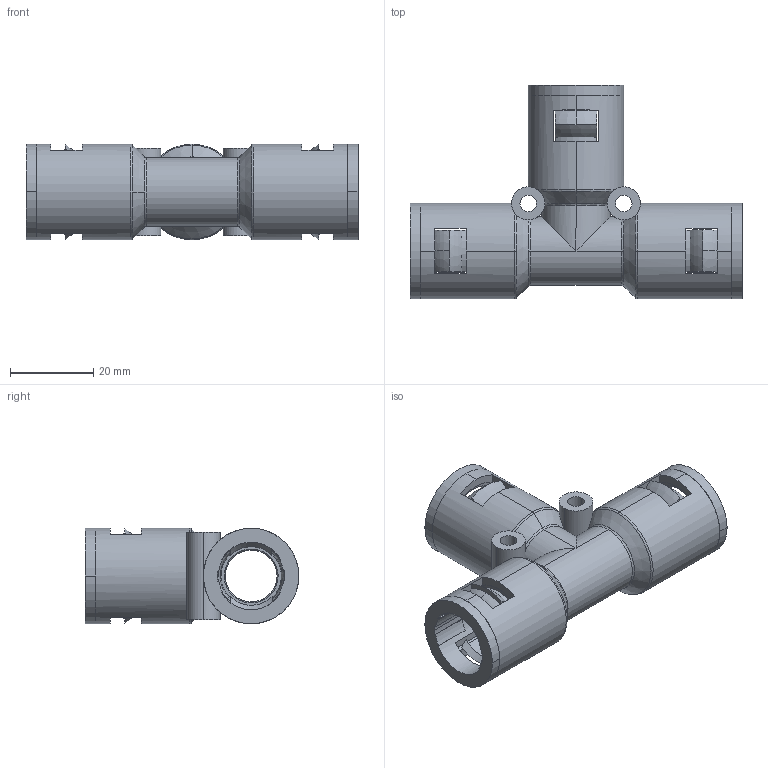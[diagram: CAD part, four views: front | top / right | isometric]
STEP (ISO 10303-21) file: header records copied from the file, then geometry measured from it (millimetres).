
FILE_DESCRIPTION (( 'STEP AP214' ), '1' );
FILE_NAME ('WQT-PA AD15.8-2X15.8.STEP', '2020-03-11T02:30:17', ( 'c' ), ( 'Microsoft' ), 'SwSTEP 2.0', 'SolidWorks 2016', '' );
FILE_SCHEMA (( 'AUTOMOTIVE_DESIGN' ));
Length unit declared in the file: millimetre
Products named in the file (4): GFD-AD15.8; WQT-AD15.8-2x15.8-01_1; NSK-AD15.8; WQT-PA AD15.8-2X15.8
Assembly tree (7 placements, depth 2):
  WQT-PA AD15.8-2X15.8
    NSK-AD15.8  x3
    WQT-AD15.8-2x15.8-01_1
    GFD-AD15.8  x3
Bounding box: 80 x 51.5 x 23 mm (x, y, z)
Volume: 19977.5 mm3; surface area: 24911.8 mm2
Topology: 7 solids, 7 shells, 406 faces, 1040 edges, 642 vertices
Faces by surface type: plane 136, cone 126, cylinder 72, torus 48, bspline 24
Entity records: 7256 total; most frequent: CARTESIAN_POINT 2030, DIRECTION 1114, ORIENTED_EDGE 1076, EDGE_CURVE 538, AXIS2_PLACEMENT_3D 452, VERTEX_POINT 336, CIRCLE 268, EDGE_LOOP 218
